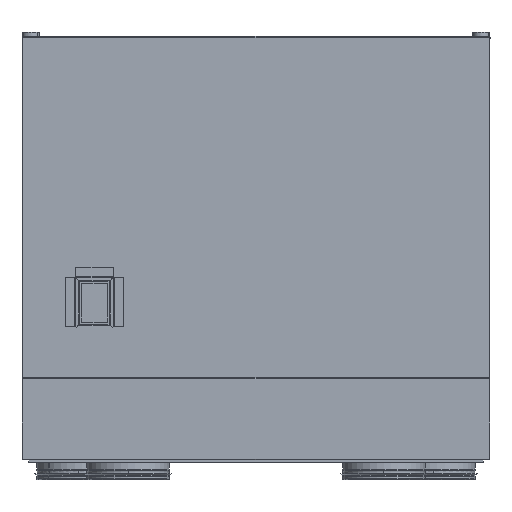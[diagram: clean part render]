
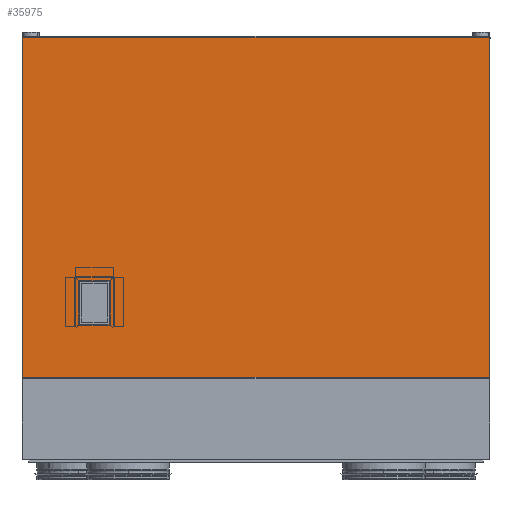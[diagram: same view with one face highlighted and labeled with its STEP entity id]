
A CAD part, front view. The second image highlights one B-rep face of the part: STEP entity #35975.
In plain terms, the highlighted planar face has unit normal (0, -1, 0) as drawn and (0, 0, 1) by its records, which use the part's own axes.
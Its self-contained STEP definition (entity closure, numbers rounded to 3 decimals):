
#10 = DIRECTION ( 'NONE',  ( 0., 0., -1. ) ) ;
#427 = ORIENTED_EDGE ( 'NONE', *, *, #33032, .F. ) ;
#669 = CARTESIAN_POINT ( 'NONE',  ( 282.65, 201.272, 300.9 ) ) ;
#1492 = EDGE_CURVE ( 'NONE', #32640, #3255, #35430, .T. ) ;
#2593 = EDGE_CURVE ( 'NONE', #28579, #22881, #47278, .T. ) ;
#2619 = VERTEX_POINT ( 'NONE', #2759 ) ;
#2759 = CARTESIAN_POINT ( 'NONE',  ( -448.2, -350.78, 300.9 ) ) ;
#3255 = VERTEX_POINT ( 'NONE', #30049 ) ;
#4417 = DIRECTION ( 'NONE',  ( 0., -1., 0. ) ) ;
#4885 = LINE ( 'NONE', #19779, #35994 ) ;
#5000 = VERTEX_POINT ( 'NONE', #669 ) ;
#5316 = CARTESIAN_POINT ( 'NONE',  ( 448.2, 303., 300.9 ) ) ;
#5579 = EDGE_CURVE ( 'NONE', #38245, #22881, #44068, .T. ) ;
#5635 = VERTEX_POINT ( 'NONE', #43071 ) ;
#5987 = ORIENTED_EDGE ( 'NONE', *, *, #5579, .T. ) ;
#6060 = VECTOR ( 'NONE', #39102, 1000. ) ;
#6318 = DIRECTION ( 'NONE',  ( 0., 1., 0. ) ) ;
#6779 = DIRECTION ( 'NONE',  ( 1., 0., 0. ) ) ;
#7467 = CARTESIAN_POINT ( 'NONE',  ( 448.2, -297.93, 300.9 ) ) ;
#7894 = AXIS2_PLACEMENT_3D ( 'NONE', #20257, #39025, #42157 ) ;
#8212 = DIRECTION ( 'NONE',  ( -1., 0., 0. ) ) ;
#8329 = AXIS2_PLACEMENT_3D ( 'NONE', #40197, #35857, #6779 ) ;
#8906 = EDGE_CURVE ( 'NONE', #11911, #30614, #22075, .T. ) ;
#9806 = DIRECTION ( 'NONE',  ( 1., 0., 0. ) ) ;
#10827 = EDGE_CURVE ( 'NONE', #5635, #2619, #12992, .T. ) ;
#11911 = VERTEX_POINT ( 'NONE', #34884 ) ;
#12235 = VECTOR ( 'NONE', #28438, 1000. ) ;
#12992 = LINE ( 'NONE', #41395, #13692 ) ;
#13038 = PLANE ( 'NONE',  #7894 ) ;
#13384 = CARTESIAN_POINT ( 'NONE',  ( 338.35, 199.622, 300.9 ) ) ;
#13692 = VECTOR ( 'NONE', #8212, 1000. ) ;
#14834 = EDGE_LOOP ( 'NONE', ( #43252, #21775, #15634, #31691 ) ) ;
#15634 = ORIENTED_EDGE ( 'NONE', *, *, #10827, .F. ) ;
#16224 = LINE ( 'NONE', #24390, #6060 ) ;
#16991 = DIRECTION ( 'NONE',  ( 1., 0., 0. ) ) ;
#17371 = EDGE_LOOP ( 'NONE', ( #45116, #5987, #19387, #22472, #18686, #45190, #427, #42098 ) ) ;
#17532 = CIRCLE ( 'NONE', #8329, 1.65 ) ;
#17589 = LINE ( 'NONE', #32030, #46489 ) ;
#17714 = EDGE_CURVE ( 'NONE', #2619, #3255, #17589, .T. ) ;
#17798 = DIRECTION ( 'NONE',  ( 1., 0., 0. ) ) ;
#17813 = VECTOR ( 'NONE', #28930, 1000. ) ;
#18686 = ORIENTED_EDGE ( 'NONE', *, *, #43341, .F. ) ;
#19215 = VECTOR ( 'NONE', #22569, 1000. ) ;
#19292 = CARTESIAN_POINT ( 'NONE',  ( 281., 119.922, 300.9 ) ) ;
#19331 = CARTESIAN_POINT ( 'NONE',  ( 282.65, 118.272, 300.9 ) ) ;
#19387 = ORIENTED_EDGE ( 'NONE', *, *, #2593, .F. ) ;
#19779 = CARTESIAN_POINT ( 'NONE',  ( 281., 201.272, 300.9 ) ) ;
#20257 = CARTESIAN_POINT ( 'NONE',  ( -450., 1204.8, 300.9 ) ) ;
#20372 = CARTESIAN_POINT ( 'NONE',  ( 338.35, 118.272, 300.9 ) ) ;
#21775 = ORIENTED_EDGE ( 'NONE', *, *, #17714, .F. ) ;
#22075 = CIRCLE ( 'NONE', #40491, 1.65 ) ;
#22130 = CARTESIAN_POINT ( 'NONE',  ( 338.35, 119.922, 300.9 ) ) ;
#22230 = EDGE_CURVE ( 'NONE', #28579, #31223, #17532, .T. ) ;
#22472 = ORIENTED_EDGE ( 'NONE', *, *, #22230, .T. ) ;
#22569 = DIRECTION ( 'NONE',  ( 0., -1., 0. ) ) ;
#22881 = VERTEX_POINT ( 'NONE', #20372 ) ;
#23076 = DIRECTION ( 'NONE',  ( 0., 0., -1. ) ) ;
#24234 = DIRECTION ( 'NONE',  ( 0., 1., 0. ) ) ;
#24390 = CARTESIAN_POINT ( 'NONE',  ( 281., 201.272, 300.9 ) ) ;
#26105 = EDGE_CURVE ( 'NONE', #38245, #30614, #35783, .T. ) ;
#28055 = DIRECTION ( 'NONE',  ( 0., 0., -1. ) ) ;
#28091 = CARTESIAN_POINT ( 'NONE',  ( 340., 201.272, 300.9 ) ) ;
#28438 = DIRECTION ( 'NONE',  ( -1., 0., 0. ) ) ;
#28579 = VERTEX_POINT ( 'NONE', #19331 ) ;
#28930 = DIRECTION ( 'NONE',  ( 1., 0., 0. ) ) ;
#29554 = LINE ( 'NONE', #7467, #19215 ) ;
#30049 = CARTESIAN_POINT ( 'NONE',  ( -448.2, 303., 300.9 ) ) ;
#30614 = VERTEX_POINT ( 'NONE', #31479 ) ;
#31071 = AXIS2_PLACEMENT_3D ( 'NONE', #34394, #23076, #16991 ) ;
#31223 = VERTEX_POINT ( 'NONE', #19292 ) ;
#31479 = CARTESIAN_POINT ( 'NONE',  ( 340., 199.622, 300.9 ) ) ;
#31539 = FACE_OUTER_BOUND ( 'NONE', #14834, .T. ) ;
#31691 = ORIENTED_EDGE ( 'NONE', *, *, #34061, .F. ) ;
#32030 = CARTESIAN_POINT ( 'NONE',  ( -448.2, -297.93, 300.9 ) ) ;
#32640 = VERTEX_POINT ( 'NONE', #5316 ) ;
#32689 = CARTESIAN_POINT ( 'NONE',  ( 281., 199.622, 300.9 ) ) ;
#33032 = EDGE_CURVE ( 'NONE', #11911, #5000, #16224, .T. ) ;
#34061 = EDGE_CURVE ( 'NONE', #32640, #5635, #29554, .T. ) ;
#34394 = CARTESIAN_POINT ( 'NONE',  ( 282.65, 199.622, 300.9 ) ) ;
#34884 = CARTESIAN_POINT ( 'NONE',  ( 338.35, 201.272, 300.9 ) ) ;
#35266 = VERTEX_POINT ( 'NONE', #32689 ) ;
#35391 = FACE_BOUND ( 'NONE', #17371, .T. ) ;
#35430 = LINE ( 'NONE', #46783, #12235 ) ;
#35595 = AXIS2_PLACEMENT_3D ( 'NONE', #22130, #10, #17798 ) ;
#35647 = VECTOR ( 'NONE', #24234, 1000. ) ;
#35783 = LINE ( 'NONE', #28091, #35647 ) ;
#35857 = DIRECTION ( 'NONE',  ( 0., 0., -1. ) ) ;
#35975 = ADVANCED_FACE ( 'NONE', ( #35391, #31539 ), #13038, .T. ) ;
#35994 = VECTOR ( 'NONE', #4417, 1000. ) ;
#38245 = VERTEX_POINT ( 'NONE', #42437 ) ;
#38775 = CIRCLE ( 'NONE', #31071, 1.65 ) ;
#39025 = DIRECTION ( 'NONE',  ( 0., 0., 1. ) ) ;
#39102 = DIRECTION ( 'NONE',  ( -1., 0., 0. ) ) ;
#39565 = EDGE_CURVE ( 'NONE', #35266, #5000, #38775, .T. ) ;
#40197 = CARTESIAN_POINT ( 'NONE',  ( 282.65, 119.922, 300.9 ) ) ;
#40491 = AXIS2_PLACEMENT_3D ( 'NONE', #13384, #28055, #9806 ) ;
#41395 = CARTESIAN_POINT ( 'NONE',  ( 448.2, -350.78, 300.9 ) ) ;
#42098 = ORIENTED_EDGE ( 'NONE', *, *, #8906, .T. ) ;
#42157 = DIRECTION ( 'NONE',  ( 1., 0., 0. ) ) ;
#42437 = CARTESIAN_POINT ( 'NONE',  ( 340., 119.922, 300.9 ) ) ;
#42918 = CARTESIAN_POINT ( 'NONE',  ( 281., 118.272, 300.9 ) ) ;
#43071 = CARTESIAN_POINT ( 'NONE',  ( 448.2, -350.78, 300.9 ) ) ;
#43252 = ORIENTED_EDGE ( 'NONE', *, *, #1492, .T. ) ;
#43341 = EDGE_CURVE ( 'NONE', #35266, #31223, #4885, .T. ) ;
#44068 = CIRCLE ( 'NONE', #35595, 1.65 ) ;
#45116 = ORIENTED_EDGE ( 'NONE', *, *, #26105, .F. ) ;
#45190 = ORIENTED_EDGE ( 'NONE', *, *, #39565, .T. ) ;
#46489 = VECTOR ( 'NONE', #6318, 1000. ) ;
#46783 = CARTESIAN_POINT ( 'NONE',  ( 450., 303., 300.9 ) ) ;
#47278 = LINE ( 'NONE', #42918, #17813 ) ;
